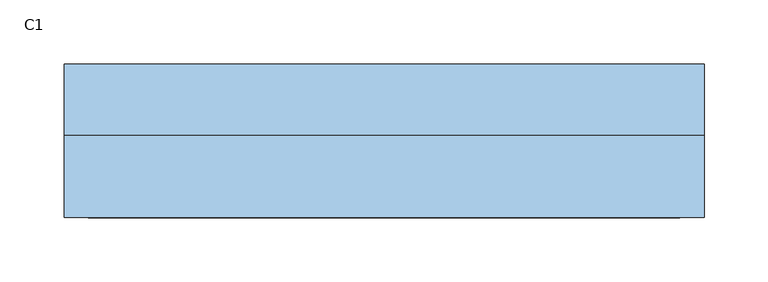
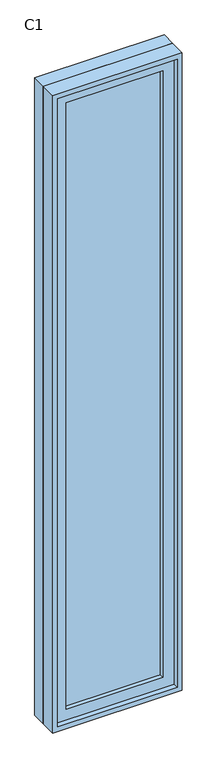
"""IFC4 building model written with IfcOpenShell, lengths in millimetres: window geometry, 固定窗 : C1."""

from ifc_helpers import new_model, si_unit, frame, origin, place, context, project, spatial, polyline, outline, extrude, source, transform, mapped, element, save


def c1_4246e2e2(model_context):
    return source(origin(), model_context, "Body", "SweptSolid", [
        extrude(outline(polyline([(148.4, -11.425), (148.4, -24.125), (-224.6, -24.125), (-224.6, -11.425), (148.4, -11.425)])), frame((0.0, 0.0, 63.5), z_axis=(0.0, 0.0, 1.0), x_axis=(1.0, 0.0, 0.0)), (0.0, 0.0, 1.0), 2473.0),
        extrude(outline(polyline([(2580.95, -269.05), (19.05, -269.05), (19.05, 192.85), (2580.95, 192.85), (2580.95, -269.05)]), holes=[polyline([(2536.5, -224.6), (2536.5, 148.4), (63.5, 148.4), (63.5, -224.6), (2536.5, -224.6)])]), frame((0.0, -40.0, 0.0), z_axis=(0.0, 1.0, 0.0), x_axis=(0.0, 0.0, 1.0)), (0.0, 0.0, 1.0), 44.45),
        extrude(outline(polyline([(2600.0, -288.1), (0.0, -288.1), (0.0, 211.9), (2600.0, 211.9), (2600.0, -288.1)]), holes=[polyline([(2568.25, -256.35), (2568.25, 180.15), (31.75, 180.15), (31.75, -256.35), (2568.25, -256.35)])]), frame((0.0, 4.45, 0.0), z_axis=(0.0, 1.0, 0.0), x_axis=(0.0, 0.0, 1.0)), (0.0, 0.0, 1.0), 55.55),
        extrude(outline(polyline([(2600.0, 211.9), (2600.0, -288.1), (0.0, -288.1), (0.0, 211.9), (2600.0, 211.9)]), holes=[polyline([(2580.95, 192.85), (19.05, 192.85), (19.05, -269.05), (2580.95, -269.05), (2580.95, 192.85)])]), frame((0.0, -60.0, 0.0), z_axis=(0.0, 1.0, 0.0), x_axis=(0.0, 0.0, 1.0)), (0.0, 0.0, 1.0), 64.45),
    ])


if __name__ == "__main__":
    model = new_model("IFC4")
    model_context = context("Model", 3, world=origin())
    ifc_project = project(units=[si_unit("LENGTHUNIT", "METRE", prefix="MILLI")], contexts=[model_context])
    site = spatial("IfcSite", under=ifc_project)
    building = spatial("IfcBuilding", under=site)
    placement = place(None, origin())
    c1_shape = c1_4246e2e2(model_context)
    element("IfcWindow", 1, ObjectType="固定窗 : C1", at=placement, inside=building, context=model_context, shape_type="MappedRepresentation", body=[
        mapped(c1_shape, transform((0.0, 0.0, 0.0), x_axis=(1.0, 0.0, 0.0), y_axis=(0.0, 1.0, 0.0), z_axis=(0.0, 0.0, 1.0))),
    ])
    save(model, "model.ifc")
